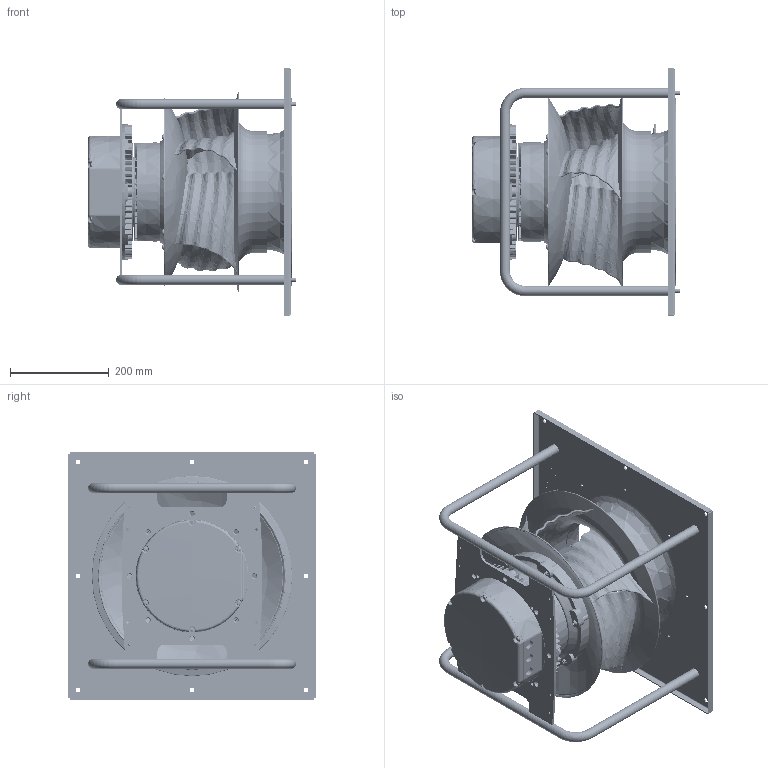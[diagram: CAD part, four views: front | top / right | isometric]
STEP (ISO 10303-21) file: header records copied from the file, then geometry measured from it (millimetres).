
FILE_DESCRIPTION((''),'2;1');
FILE_NAME('L-AL-GR01656_SW0001','2019-12-18T',('gysin'),(''),'CREO PARAMETRIC BY PTC INC, 2018070','CREO PARAMETRIC BY PTC INC, 2018070','');
FILE_SCHEMA(('AUTOMOTIVE_DESIGN { 1 0 10303 214 1 1 1 1 }'));
Length unit declared in the file: millimetre
Products named in the file (1): L-AL-GR01656_SW0001
Bounding box: 422 x 500 x 500 mm (x, y, z)
Volume: 8888666.5 mm3; surface area: 1943698 mm2
Topology: 2 solids, 2 shells, 7026 faces, 17752 edges, 10808 vertices
Faces by surface type: bspline 2197, plane 1782, torus 1054, cylinder 951, cone 558, extrusion 434, sphere 42, revolution 8
Entity records: 430974 total; most frequent: CARTESIAN_POINT 269594, ORIENTED_EDGE 35500, DIRECTION 27339, EDGE_CURVE 17750, AXIS2_PLACEMENT_3D 10895, VERTEX_POINT 10808, EDGE_LOOP 7350, FACE_OUTER_BOUND 7026
